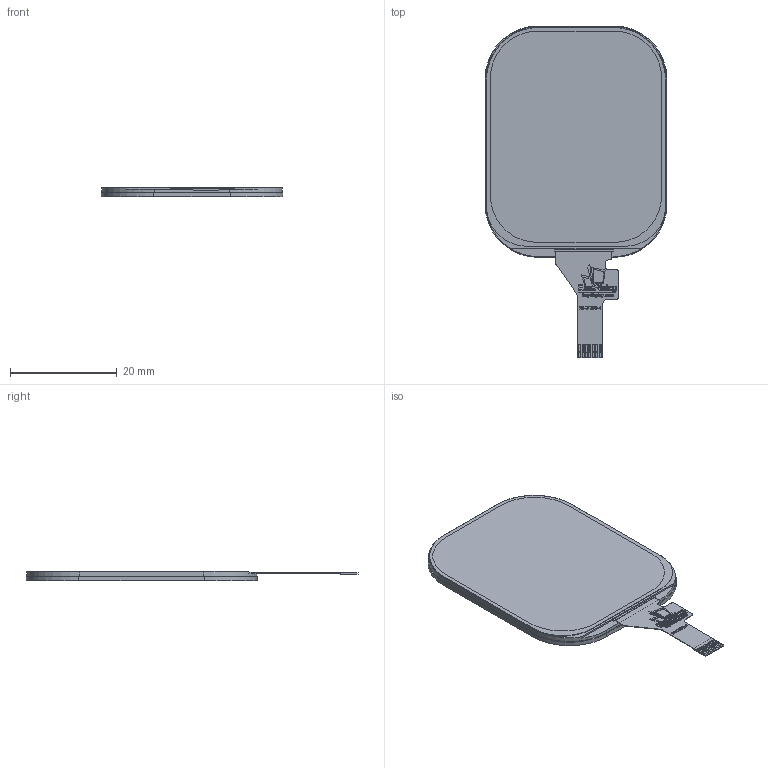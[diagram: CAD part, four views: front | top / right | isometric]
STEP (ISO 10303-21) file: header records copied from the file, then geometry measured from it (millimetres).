
FILE_DESCRIPTION (( 'STEP AP214' ), '1' );
FILE_NAME ('ER-TFT020-4.STEP', '2024-08-27T02:38:29', ( '微软用户' ), ( '微软中国' ), 'SwSTEP 2.0', 'SolidWorks 2023', '' );
FILE_SCHEMA (( 'AUTOMOTIVE_DESIGN' ));
Length unit declared in the file: millimetre
Products named in the file (1): ER-TFT020-4
Bounding box: 34.04 x 62.18 x 1.8 mm (x, y, z)
Volume: 2488.3 mm3; surface area: 3328.8 mm2
Topology: 43 solids, 43 shells, 670 faces, 1800 edges, 1226 vertices
Faces by surface type: plane 379, bspline 272, cylinder 19
Entity records: 31773 total; most frequent: CARTESIAN_POINT 15537, ORIENTED_EDGE 3600, DIRECTION 2126, EDGE_CURVE 1800, VERTEX_POINT 1226, LINE 1184, VECTOR 1184, EDGE_LOOP 706
